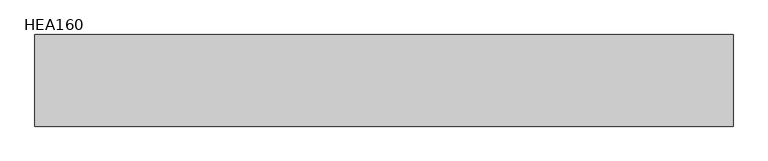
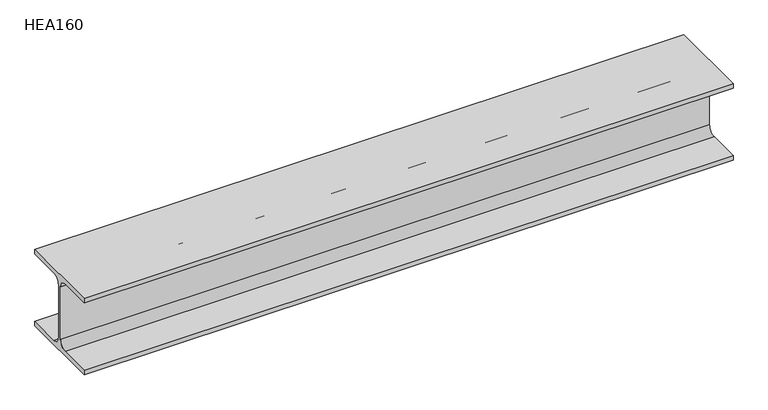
"""IFC4 building model written with IfcOpenShell, lengths in millimetres: beam geometry, HE-A : HEA160."""

from ifc_helpers import new_model, si_unit, point, frame, frame_2d, origin, place, context, project, spatial, polyline, circle_curve, trimmed, segment, composite_curve, outline, extrude, source, transform, mapped, element, save


def hea160_c7043086(model_context):
    return source(origin(), model_context, "Body", "SweptSolid", [
        extrude(outline(composite_curve([segment(polyline([(80.0, -67.0), (80.0, -76.0), (-80.0, -76.0), (-80.0, -67.0), (-18.0, -67.0)]), True, "CONTINUOUS"), segment(trimmed(circle_curve(frame_2d((-18.0, -52.0)), 15.0), [point((-18.0, -67.0))], [point((-3.0, -52.0))], True, "CARTESIAN"), True, "CONTINUOUS"), segment(polyline([(-3.0, -52.0), (-3.0, 52.0)]), True, "CONTINUOUS"), segment(trimmed(circle_curve(frame_2d((-18.0, 52.0)), 15.0), [point((-3.0, 52.0))], [point((-18.0, 67.0))], True, "CARTESIAN"), True, "CONTINUOUS"), segment(polyline([(-18.0, 67.0), (-80.0, 67.0), (-80.0, 76.0), (80.0, 76.0), (80.0, 67.0), (18.0, 67.0)]), True, "CONTINUOUS"), segment(trimmed(circle_curve(frame_2d((18.0, 52.0)), 15.0), [point((18.0, 67.0))], [point((3.0, 52.0))], True, "CARTESIAN"), True, "CONTINUOUS"), segment(polyline([(3.0, 52.0), (3.0, -52.0)]), True, "CONTINUOUS"), segment(trimmed(circle_curve(frame_2d((18.0, -52.0)), 15.0), [point((3.0, -52.0))], [point((18.0, -67.0))], True, "CARTESIAN"), True, "CONTINUOUS"), segment(polyline([(18.0, -67.0), (80.0, -67.0)]), True, "CONTINUOUS")], self_intersect=False)), frame((-604.9899, 0.0, 0.0), z_axis=(1.0, 0.0, 0.0), x_axis=(0.0, 1.0, 0.0)), (0.0, 0.0, 1.0), 1219.2),
    ])


if __name__ == "__main__":
    model = new_model("IFC4")
    model_context = context("Model", 3, world=origin())
    ifc_project = project(units=[si_unit("LENGTHUNIT", "METRE", prefix="MILLI")], contexts=[model_context])
    site = spatial("IfcSite", under=ifc_project)
    building = spatial("IfcBuilding", under=site)
    placement = place(None, origin())
    hea160_shape = hea160_c7043086(model_context)
    element("IfcBeam", 1, ObjectType="HE-A : HEA160", at=placement, inside=building, context=model_context, shape_type="MappedRepresentation", body=[
        mapped(hea160_shape, transform((0.0, 0.0, 0.0), x_axis=(1.0, 0.0, 0.0), y_axis=(0.0, 1.0, 0.0), z_axis=(0.0, 0.0, 1.0))),
    ])
    save(model, "model.ifc")
